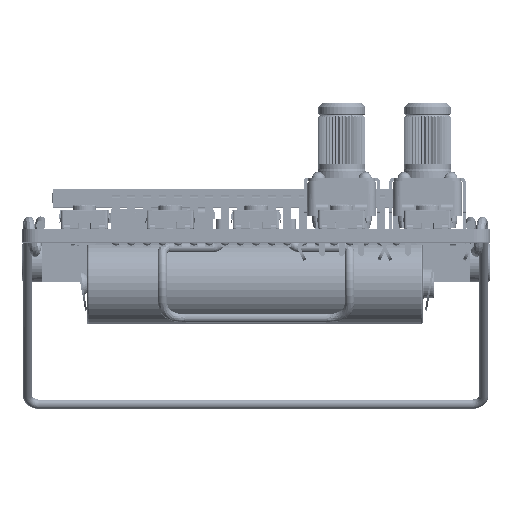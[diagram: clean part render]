
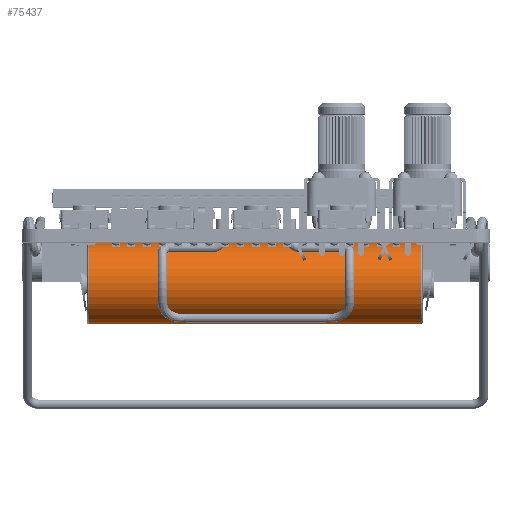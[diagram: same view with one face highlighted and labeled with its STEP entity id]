
A CAD part, top view. The second image highlights one B-rep face of the part: STEP entity #75437.
In plain terms, the highlighted cylindrical face has radius 5.25 mm (diameter 10.5 mm), a partial arc.
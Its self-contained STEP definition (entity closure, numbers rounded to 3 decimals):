
#6334 = CARTESIAN_POINT ( 'NONE',  ( -21.4, 0.067, -22.731 ) ) ;
#16796 = DIRECTION ( 'NONE',  ( 0., 1., -0.006 ) ) ;
#20797 = CARTESIAN_POINT ( 'NONE',  ( 21.1, -5.183, -22.7 ) ) ;
#45165 = CARTESIAN_POINT ( 'NONE',  ( -21.4, -5.183, -22.7 ) ) ;
#52224 = LINE ( 'NONE', #389410, #120218 ) ;
#54495 = DIRECTION ( 'NONE',  ( 0., 1., -0.006 ) ) ;
#63274 = DIRECTION ( 'NONE',  ( -1., 0., 0. ) ) ;
#75437 = ADVANCED_FACE ( 'NONE', ( #86548 ), #389659, .T. ) ;
#78899 = DIRECTION ( 'NONE',  ( 0., -1., 0.006 ) ) ;
#81060 = CARTESIAN_POINT ( 'NONE',  ( 21.1, 0.067, -22.731 ) ) ;
#86548 = FACE_OUTER_BOUND ( 'NONE', #232397, .T. ) ;
#96877 = CARTESIAN_POINT ( 'NONE',  ( -21.65, 0.067, -22.731 ) ) ;
#120218 = VECTOR ( 'NONE', #323635, 1000. ) ;
#120678 = CIRCLE ( 'NONE', #256185, 5.25 ) ;
#141485 = VERTEX_POINT ( 'NONE', #81060 ) ;
#152841 = AXIS2_PLACEMENT_3D ( 'NONE', #20797, #254756, #54495 ) ;
#160619 = ORIENTED_EDGE ( 'NONE', *, *, #387748, .T. ) ;
#164419 = EDGE_CURVE ( 'NONE', #414496, #261235, #52224, .T. ) ;
#213049 = VERTEX_POINT ( 'NONE', #6334 ) ;
#215807 = CARTESIAN_POINT ( 'NONE',  ( -21.65, -5.183, -22.7 ) ) ;
#223345 = EDGE_CURVE ( 'NONE', #141485, #213049, #249961, .T. ) ;
#232397 = EDGE_LOOP ( 'NONE', ( #291745, #337825, #415192, #160619 ) ) ;
#234186 = CARTESIAN_POINT ( 'NONE',  ( 21.1, -10.433, -22.669 ) ) ;
#249961 = LINE ( 'NONE', #96877, #328408 ) ;
#252582 = CARTESIAN_POINT ( 'NONE',  ( -21.4, -10.433, -22.669 ) ) ;
#254756 = DIRECTION ( 'NONE',  ( -1., 0., 0. ) ) ;
#256185 = AXIS2_PLACEMENT_3D ( 'NONE', #45165, #279107, #78899 ) ;
#261235 = VERTEX_POINT ( 'NONE', #252582 ) ;
#261770 = EDGE_CURVE ( 'NONE', #414496, #141485, #281566, .T. ) ;
#279107 = DIRECTION ( 'NONE',  ( 1., 0., 0. ) ) ;
#281566 = CIRCLE ( 'NONE', #152841, 5.25 ) ;
#291745 = ORIENTED_EDGE ( 'NONE', *, *, #164419, .F. ) ;
#296343 = AXIS2_PLACEMENT_3D ( 'NONE', #215807, #316438, #16796 ) ;
#316438 = DIRECTION ( 'NONE',  ( -1., 0., 0. ) ) ;
#323635 = DIRECTION ( 'NONE',  ( -1., 0., 0. ) ) ;
#328408 = VECTOR ( 'NONE', #63274, 1000. ) ;
#337825 = ORIENTED_EDGE ( 'NONE', *, *, #261770, .T. ) ;
#387748 = EDGE_CURVE ( 'NONE', #213049, #261235, #120678, .T. ) ;
#389410 = CARTESIAN_POINT ( 'NONE',  ( -21.65, -10.433, -22.669 ) ) ;
#389659 = CYLINDRICAL_SURFACE ( 'NONE', #296343, 5.25 ) ;
#414496 = VERTEX_POINT ( 'NONE', #234186 ) ;
#415192 = ORIENTED_EDGE ( 'NONE', *, *, #223345, .T. ) ;
